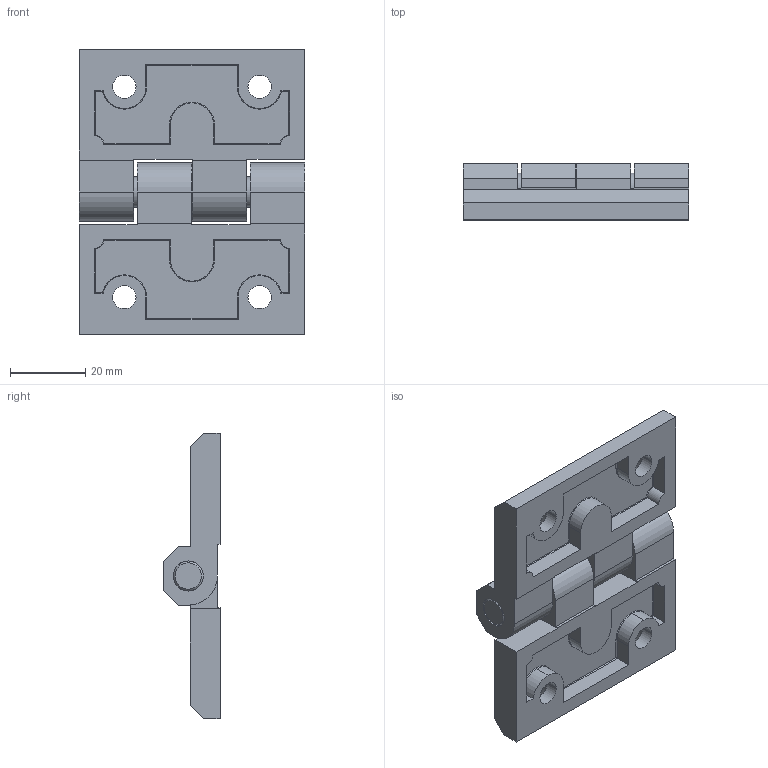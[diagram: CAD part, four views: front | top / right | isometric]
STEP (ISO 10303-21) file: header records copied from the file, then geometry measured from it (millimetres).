
FILE_DESCRIPTION (( 'STEP AP214' ), '1' );
FILE_NAME ('3.ZN66.002.STEP', '2010-03-02T13:30:27', ( '£ukaszC' ), ( '' ), 'SwSTEP 2.0', 'SolidWorks 2008', '' );
FILE_SCHEMA (( 'AUTOMOTIVE_DESIGN' ));
Length unit declared in the file: millimetre
Products named in the file (3): 3.ZN66.001.00_Domyœlna; 3.ZN66.002; 3.ZN66.001.01_3.ZN66.001.02
Assembly tree (3 placements, depth 2):
  3.ZN66.002
    3.ZN66.001.00_Domyœlna
    3.ZN66.001.01_3.ZN66.001.02  x2
Bounding box: 60 x 15 x 76 mm (x, y, z)
Volume: 30628.9 mm3; surface area: 18016.8 mm2
Topology: 3 solids, 3 shells, 249 faces, 613 edges, 372 vertices
Faces by surface type: plane 116, cylinder 91, torus 30, cone 12
Entity records: 5180 total; most frequent: DIRECTION 905, CARTESIAN_POINT 843, ORIENTED_EDGE 784, EDGE_CURVE 392, AXIS2_PLACEMENT_3D 358, VERTEX_POINT 236, CIRCLE 191, LINE 189
